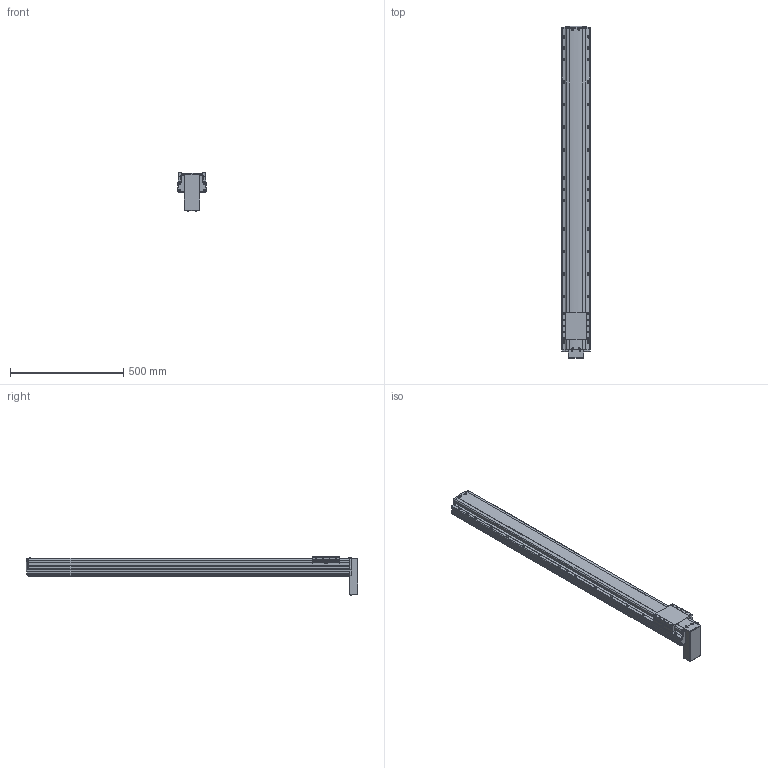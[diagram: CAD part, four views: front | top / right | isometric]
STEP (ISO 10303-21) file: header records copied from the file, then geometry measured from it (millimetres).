
FILE_DESCRIPTION(('STEP AP214'),'1');
FILE_NAME('Z:/Web/3D/PSA125/STP/PSA125-1200 (3D)/PSA125ㅁㅁ-1200PB.stp','2014-06-23T06:02:07',(' '),(' '),'Spatial InterOp 3D',' ',' ');
FILE_SCHEMA(('automotive_design'));
Length unit declared in the file: millimetre
Products named in the file (29): 스크루 : Round - M4.0 x 10.0; RRCV-PA120; SLIDE; BASE; FRCV-PA120-1(기준 뿔 제거); RR1500; 스크루 : Round - M4.0 x 6.0; 너트 : Square - M10.0 x 220.7419; 1; 2; 파트105; 스크루 : Round - M3.0 x 6.0
Bounding box: 125 x 1468.6 x 169.06 mm (x, y, z)
Volume: 12334091.7 mm3; surface area: 951865.6 mm2
Topology: 29 solids, 29 shells, 2246 faces, 5991 edges, 3796 vertices
Faces by surface type: plane 1152, cylinder 704, cone 274, sphere 52, torus 33, bspline 31
Entity records: 89708 total; most frequent: CARTESIAN_POINT 14861, DIRECTION 11988, ORIENTED_EDGE 11658, EDGE_CURVE 5829, AXIS2_PLACEMENT_3D 4115, VERTEX_POINT 3796, LINE 3758, VECTOR 3758
